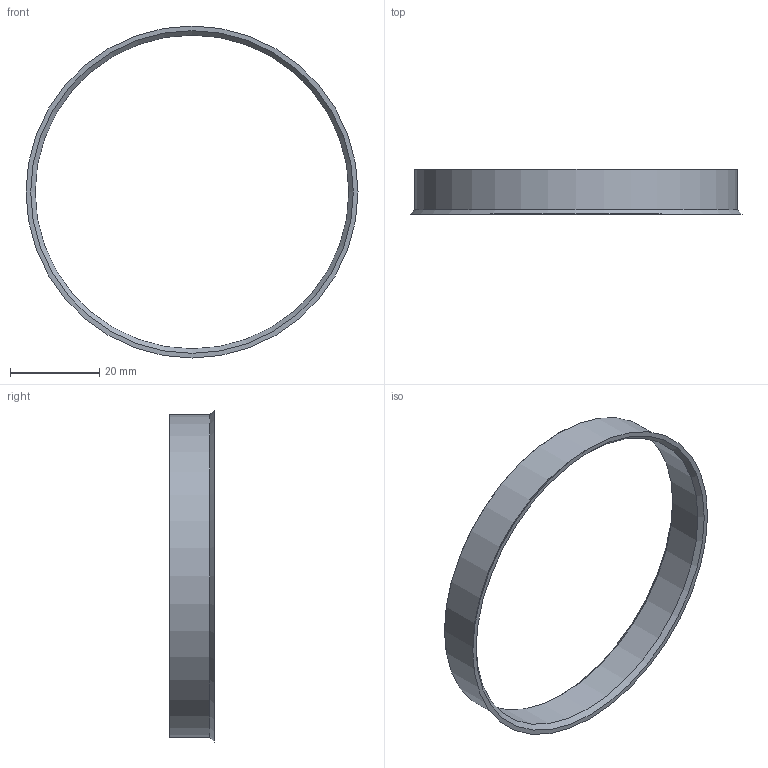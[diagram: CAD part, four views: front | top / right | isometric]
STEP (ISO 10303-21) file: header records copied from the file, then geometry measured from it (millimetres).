
FILE_DESCRIPTION(/* description */ (''),/* implementation_level */ '2;1');
FILE_NAME(/* name */ 'G:\CAD Library\Team Tasks\DIPP\11th Intake\Bradley Coles\Design Drafting\Random\Hub Rings\ipt\HubRing_72.6-70.5.stp',/* time_stamp */ '2025-07-22T13:45:44+08:00',/* author */ ('BCOLES'),/* organization */ (''),/* preprocessor_version */ 'ST-DEVELOPER v18.1',/* originating_system */ 'Autodesk Inventor 2022',/* authorisation */ '');
FILE_SCHEMA (('AUTOMOTIVE_DESIGN { 1 0 10303 214 3 1 1 }'));
Length unit declared in the file: millimetre
Products named in the file (1): HubRing_72.6-70.5
Bounding box: 74.6 x 10 x 74.6 mm (x, y, z)
Volume: 2251.7 mm3; surface area: 5040.9 mm2
Topology: 1 solids, 1 shells, 7 faces, 13 edges, 8 vertices
Faces by surface type: cone 3, cylinder 2, plane 2
Full cylindrical faces by diameter (mm): 70.5 x1, 72.6 x1
Entity records: 226 total; most frequent: DIRECTION 37, CARTESIAN_POINT 29, ORIENTED_EDGE 26, AXIS2_PLACEMENT_3D 16, EDGE_CURVE 13, EDGE_LOOP 9, CIRCLE 8, VERTEX_POINT 8
